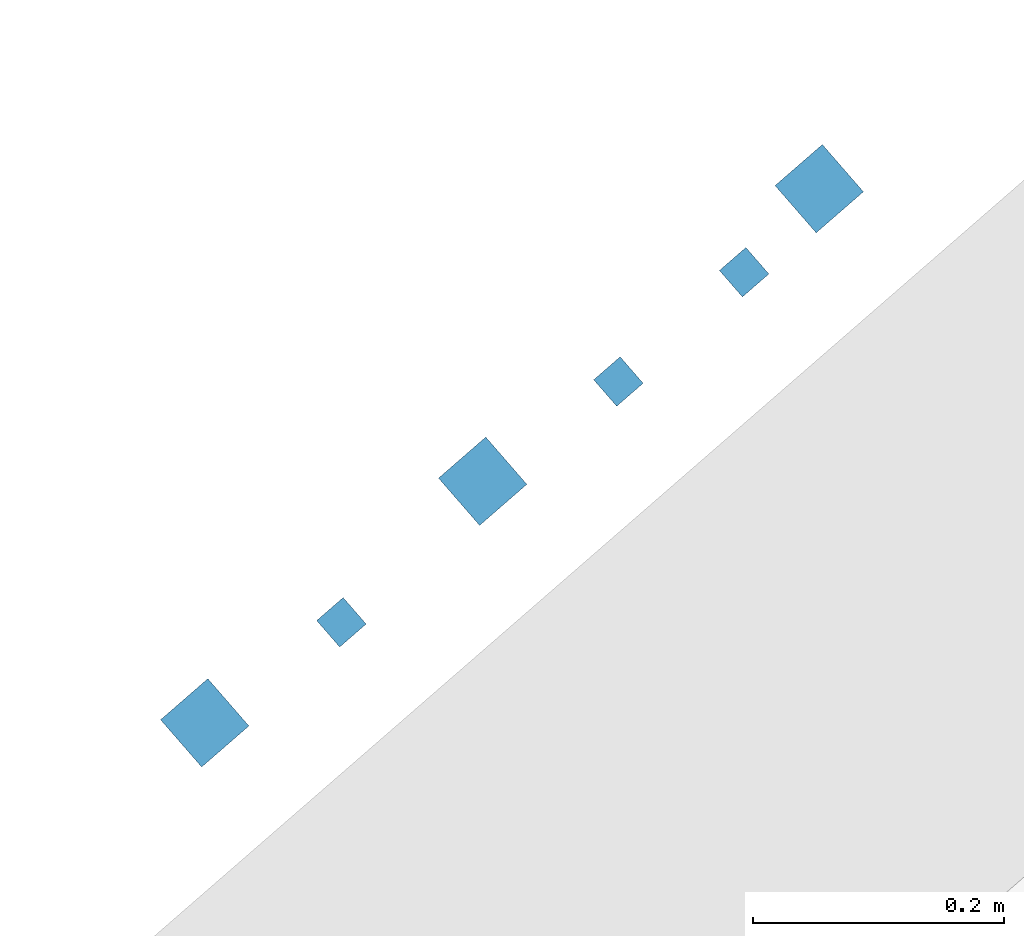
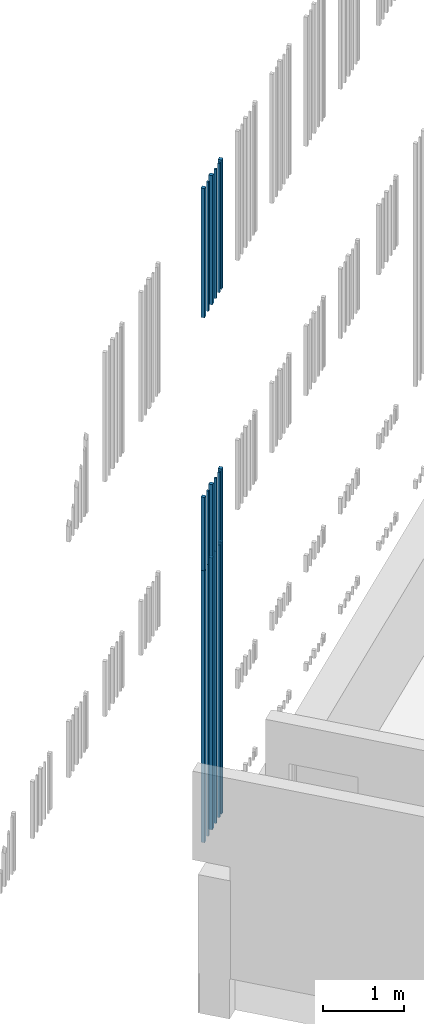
# One storey, part 41 of 124: 18 walls.
"""IFC2X3 building model written with IfcOpenShell, lengths in millimetres."""

from ifc_helpers import new_model, entity, si_unit, converted_unit, derived_unit, money_unit, direction, frame, origin_with_axes, place, context, subcontext, project, spatial, faceted_brep, material, type_object, element, save


model = new_model("IFC2X3")

# Units and contexts
model_context = context("Model", 3, precision=1e-05, world=origin_with_axes(), true_north=direction((0.0, 1.0)))
body_context = subcontext(model_context, "Body", "Model", "MODEL_VIEW")
ifc_project = project(units=[si_unit("LENGTHUNIT", "METRE", prefix="MILLI"), si_unit("AREAUNIT", "SQUARE_METRE"), si_unit("VOLUMEUNIT", "CUBIC_METRE"), converted_unit("PLANEANGLEUNIT", "DEGREE", entity("IfcPlaneAngleMeasure", 0.0174532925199), si_unit("PLANEANGLEUNIT", "RADIAN"), dimensions=[0, 0, 0, 0, 0, 0, 0]), si_unit("SOLIDANGLEUNIT", "STERADIAN"), money_unit("EUR"), converted_unit("TIMEUNIT", "Year", entity("IfcTimeMeasure", 31556926.0), si_unit("TIMEUNIT", "SECOND"), dimensions=[0, 0, 1, 0, 0, 0, 0]), si_unit("MASSUNIT", "GRAM", prefix="KILO"), si_unit("THERMODYNAMICTEMPERATUREUNIT", "DEGREE_CELSIUS"), si_unit("LUMINOUSINTENSITYUNIT", "LUMEN"), si_unit("ENERGYUNIT", "JOULE", prefix="MEGA"), derived_unit("THERMALCONDUCTANCEUNIT", [(si_unit("POWERUNIT", "WATT"), 1), (si_unit("LENGTHUNIT", "METRE"), -1), (si_unit("THERMODYNAMICTEMPERATUREUNIT", "KELVIN"), -1)]), derived_unit("SPECIFICHEATCAPACITYUNIT", [(si_unit("ENERGYUNIT", "JOULE"), 1), (si_unit("MASSUNIT", "GRAM", prefix="KILO"), -1), (si_unit("THERMODYNAMICTEMPERATUREUNIT", "KELVIN"), -1)]), derived_unit("MASSDENSITYUNIT", [(si_unit("MASSUNIT", "GRAM", prefix="KILO"), 1), (si_unit("VOLUMEUNIT", "CUBIC_METRE"), -1)])], contexts=[model_context])

# Site, building, storey
site_placement = place(None, origin_with_axes())
site = spatial("IfcSite", under=ifc_project, at=site_placement, Name="Site", CompositionType="ELEMENT")
building_placement = place(site_placement, origin_with_axes())
building = spatial("IfcBuilding", under=site, at=building_placement, Name="Building", CompositionType="ELEMENT")
storey_placement = place(building_placement, frame((0.0, 0.0, -1615.0), z_axis=(0.0, 0.0, 1.0), x_axis=(1.0, 0.0, 0.0)))
storey = spatial("IfcBuildingStorey", under=building, at=storey_placement, Name="0  korrus", CompositionType="ELEMENT", Elevation=-1615.0)

# Walls
ifc_material = material(Name="Site specified")
wall_type = type_object("IfcWallType", Name="Puitfassaadi ribistik", PredefinedType="NOTDEFINED")
wall_1_placement = place(storey_placement, frame((137526.301261, 89586.2055734, 1615.0), z_axis=(0.0, 0.0, 1.0), x_axis=(0.754709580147, 0.656059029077, 0.0)))
element("IfcWall", 1, at=wall_1_placement, inside=storey, type_object=wall_type, material=ifc_material, Name="Site specified", context=body_context, shape_type="Brep", body=[
    faceted_brep([(25.0, 25.0, 4100.0), (25.0, 25.0, 0.0), (-25.0, 25.0, 0.0), (-25.0, 25.0, 4100.0), (25.0, -25.0, 4100.0), (25.0, -25.0, 0.0), (-25.0, -25.0, 0.0), (-25.0, -25.0, 4100.0)], [[[0, 1, 2, 3]], [[4, 5, 1, 0]], [[2, 1, 5, 6]], [[3, 2, 6, 7]], [[4, 0, 3, 7]], [[7, 6, 5, 4]]]),
])
wall_2_placement = place(storey_placement, frame((137635.405583, 89666.4733708, 1615.0), z_axis=(0.0, 0.0, 1.0), x_axis=(0.754709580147, 0.656059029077, 0.0)))
element("IfcWall", 2, at=wall_2_placement, inside=storey, type_object=wall_type, material=ifc_material, Name="Site specified", context=body_context, shape_type="Brep", body=[
    faceted_brep([(14.0, 14.0, 4100.0), (14.0, 14.0, 0.0), (-14.0, 14.0, 0.0), (-14.0, 14.0, 4100.0), (14.0, -14.0, 4100.0), (14.0, -14.0, 0.0), (-14.0, -14.0, 0.0), (-14.0, -14.0, 4100.0)], [[[0, 1, 2, 3]], [[4, 5, 1, 0]], [[2, 1, 5, 6]], [[3, 2, 6, 7]], [[4, 0, 3, 7]], [[7, 6, 5, 4]]]),
])
wall_3_placement = place(storey_placement, frame((137748.185876, 89779.0869265, 1615.0), z_axis=(0.0, 0.0, 1.0), x_axis=(0.754709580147, 0.656059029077, 0.0)))
element("IfcWall", 3, at=wall_3_placement, inside=storey, type_object=wall_type, material=ifc_material, Name="Site specified", context=body_context, shape_type="Brep", body=[
    faceted_brep([(25.0, 25.0, 4100.0), (25.0, 25.0, 0.0), (-25.0, 25.0, 0.0), (-25.0, 25.0, 4100.0), (25.0, -25.0, 4100.0), (25.0, -25.0, 0.0), (-25.0, -25.0, 0.0), (-25.0, -25.0, 4100.0)], [[[0, 1, 2, 3]], [[4, 5, 1, 0]], [[2, 1, 5, 6]], [[3, 2, 6, 7]], [[4, 0, 3, 7]], [[7, 6, 5, 4]]]),
])
for number, where, z_axis, x_axis, name in (
    (4, (137956.911842, 89945.9544977, 1615.0), (0.0, 0.0, 1.0), (0.754709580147, 0.656059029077, 0.0), "Site specified"),
    (5, (137856.535468, 89858.6986474, 1615.0), (0.0, 0.0, 1.0), (0.754709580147, 0.656059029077, 0.0), "Site specified"),
):
    element("IfcWall", number, at=place(storey_placement, frame(where, z_axis=z_axis, x_axis=x_axis)), inside=storey, type_object=wall_type, material=ifc_material, Name=name, context=body_context, shape_type="Brep", body=[
        faceted_brep([(14.0, 14.0, 4100.0), (14.0, 14.0, 0.0), (-14.0, 14.0, 0.0), (-14.0, 14.0, 4100.0), (14.0, -14.0, 4100.0), (14.0, -14.0, 0.0), (-14.0, -14.0, 0.0), (-14.0, -14.0, 4100.0)], [[[0, 1, 2, 3]], [[4, 5, 1, 0]], [[2, 1, 5, 6]], [[3, 2, 6, 7]], [[4, 0, 3, 7]], [[7, 6, 5, 4]]]),
    ])
wall_4_placement = place(storey_placement, frame((138016.866738, 90012.6476367, 1615.0), z_axis=(0.0, 0.0, 1.0), x_axis=(0.754709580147, 0.656059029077, 0.0)))
element("IfcWall", 6, at=wall_4_placement, inside=storey, type_object=wall_type, material=ifc_material, Name="Site specified", context=body_context, shape_type="Brep", body=[
    faceted_brep([(25.0, 25.0, 4100.0), (25.0, 25.0, 0.0), (-25.0, 25.0, 0.0), (-25.0, 25.0, 4100.0), (25.0, -25.0, 4100.0), (25.0, -25.0, 0.0), (-25.0, -25.0, 0.0), (-25.0, -25.0, 4100.0)], [[[0, 1, 2, 3]], [[4, 5, 1, 0]], [[2, 1, 5, 6]], [[3, 2, 6, 7]], [[4, 0, 3, 7]], [[7, 6, 5, 4]]]),
])
for number, where, z_axis, x_axis, name in (
    (7, (137526.301261, 89586.2055734, 1615.0), (0.0, 0.0, 1.0), (0.754709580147, 0.656059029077, 0.0), "Site specified"),
    (8, (138016.866738, 90012.6476367, 1615.0), (0.0, 0.0, 1.0), (0.754709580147, 0.656059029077, 0.0), "Site specified"),
):
    element("IfcWall", number, at=place(storey_placement, frame(where, z_axis=z_axis, x_axis=x_axis)), inside=storey, type_object=wall_type, material=ifc_material, Name=name, context=body_context, shape_type="Brep", body=[
        faceted_brep([(25.0, 25.0, 5206.0), (25.0, 25.0, 0.0), (-25.0, 25.0, 0.0), (-25.0, 25.0, 5206.0), (25.0, -25.0, 5206.0), (25.0, -25.0, 0.0), (-25.0, -25.0, 0.0), (-25.0, -25.0, 5206.0)], [[[0, 1, 2, 3]], [[4, 5, 1, 0]], [[2, 1, 5, 6]], [[3, 2, 6, 7]], [[4, 0, 3, 7]], [[7, 6, 5, 4]]]),
    ])
for number, where, z_axis, x_axis, name in (
    (9, (137635.405583, 89666.4733708, 1615.0), (0.0, 0.0, 1.0), (0.754709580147, 0.656059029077, 0.0), "Site specified"),
    (10, (137956.911842, 89945.9544977, 1615.0), (0.0, 0.0, 1.0), (0.754709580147, 0.656059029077, 0.0), "Site specified"),
    (11, (137856.535468, 89858.6986474, 1615.0), (0.0, 0.0, 1.0), (0.754709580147, 0.656059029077, 0.0), "Site specified"),
):
    element("IfcWall", number, at=place(storey_placement, frame(where, z_axis=z_axis, x_axis=x_axis)), inside=storey, type_object=wall_type, material=ifc_material, Name=name, context=body_context, shape_type="Brep", body=[
        faceted_brep([(14.0, 14.0, 5206.0), (14.0, 14.0, 0.0), (-14.0, 14.0, 0.0), (-14.0, 14.0, 5206.0), (14.0, -14.0, 5206.0), (14.0, -14.0, 0.0), (-14.0, -14.0, 0.0), (-14.0, -14.0, 5206.0)], [[[0, 1, 2, 3]], [[4, 5, 1, 0]], [[2, 1, 5, 6]], [[3, 2, 6, 7]], [[4, 0, 3, 7]], [[7, 6, 5, 4]]]),
    ])
wall_5_placement = place(storey_placement, frame((137856.535468, 89858.6986474, 9530.0), z_axis=(0.0, 0.0, 1.0), x_axis=(0.754709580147, 0.656059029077, 0.0)))
element("IfcWall", 12, at=wall_5_placement, inside=storey, type_object=wall_type, material=ifc_material, Name="Site specified", context=body_context, shape_type="Brep", body=[
    faceted_brep([(14.0, 14.0, 1950.0), (14.0, 14.0, 0.0), (-14.0, 14.0, 0.0), (-14.0, 14.0, 1950.0), (14.0, -14.0, 1950.0), (14.0, -14.0, 0.0), (-14.0, -14.0, 0.0), (-14.0, -14.0, 1950.0)], [[[0, 1, 2, 3]], [[4, 5, 1, 0]], [[2, 1, 5, 6]], [[3, 2, 6, 7]], [[4, 0, 3, 7]], [[7, 6, 5, 4]]]),
])
for number, where, z_axis, x_axis, name in (
    (13, (138016.866738, 90012.6476367, 9530.0), (0.0, 0.0, 1.0), (0.754709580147, 0.656059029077, 0.0), "Site specified"),
    (14, (137748.185876, 89779.0869265, 9530.0), (0.0, 0.0, 1.0), (0.754709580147, 0.656059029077, 0.0), "Site specified"),
):
    element("IfcWall", number, at=place(storey_placement, frame(where, z_axis=z_axis, x_axis=x_axis)), inside=storey, type_object=wall_type, material=ifc_material, Name=name, context=body_context, shape_type="Brep", body=[
        faceted_brep([(25.0, 25.0, 1950.0), (25.0, 25.0, 0.0), (-25.0, 25.0, 0.0), (-25.0, 25.0, 1950.0), (25.0, -25.0, 1950.0), (25.0, -25.0, 0.0), (-25.0, -25.0, 0.0), (-25.0, -25.0, 1950.0)], [[[0, 1, 2, 3]], [[4, 5, 1, 0]], [[2, 1, 5, 6]], [[3, 2, 6, 7]], [[4, 0, 3, 7]], [[7, 6, 5, 4]]]),
    ])
wall_6_placement = place(storey_placement, frame((137748.185876, 89779.0869265, 1615.0), z_axis=(0.0, 0.0, 1.0), x_axis=(0.754709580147, 0.656059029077, 0.0)))
element("IfcWall", 15, at=wall_6_placement, inside=storey, type_object=wall_type, material=ifc_material, Name="Site specified", context=body_context, shape_type="Brep", body=[
    faceted_brep([(25.0, 25.0, 5206.0), (25.0, 25.0, 0.0), (-25.0, 25.0, 0.0), (-25.0, 25.0, 5206.0), (25.0, -25.0, 5206.0), (25.0, -25.0, 0.0), (-25.0, -25.0, 0.0), (-25.0, -25.0, 5206.0)], [[[0, 1, 2, 3]], [[4, 5, 1, 0]], [[2, 1, 5, 6]], [[3, 2, 6, 7]], [[4, 0, 3, 7]], [[7, 6, 5, 4]]]),
])
wall_7_placement = place(storey_placement, frame((137956.911842, 89945.9544977, 9530.0), z_axis=(0.0, 0.0, 1.0), x_axis=(0.754709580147, 0.656059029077, 0.0)))
element("IfcWall", 16, at=wall_7_placement, inside=storey, type_object=wall_type, material=ifc_material, Name="Site specified", context=body_context, shape_type="Brep", body=[
    faceted_brep([(14.0, 14.0, 1950.0), (14.0, 14.0, 0.0), (-14.0, 14.0, 0.0), (-14.0, 14.0, 1950.0), (14.0, -14.0, 1950.0), (14.0, -14.0, 0.0), (-14.0, -14.0, 0.0), (-14.0, -14.0, 1950.0)], [[[0, 1, 2, 3]], [[4, 5, 1, 0]], [[2, 1, 5, 6]], [[3, 2, 6, 7]], [[4, 0, 3, 7]], [[7, 6, 5, 4]]]),
])
wall_8_placement = place(storey_placement, frame((137526.301261, 89586.2055734, 9530.0), z_axis=(0.0, 0.0, 1.0), x_axis=(0.754709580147, 0.656059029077, 0.0)))
element("IfcWall", 17, at=wall_8_placement, inside=storey, type_object=wall_type, material=ifc_material, Name="Site specified", context=body_context, shape_type="Brep", body=[
    faceted_brep([(25.0, 25.0, 1950.0), (25.0, 25.0, 0.0), (-25.0, 25.0, 0.0), (-25.0, 25.0, 1950.0), (25.0, -25.0, 1950.0), (25.0, -25.0, 0.0), (-25.0, -25.0, 0.0), (-25.0, -25.0, 1950.0)], [[[0, 1, 2, 3]], [[4, 5, 1, 0]], [[2, 1, 5, 6]], [[3, 2, 6, 7]], [[4, 0, 3, 7]], [[7, 6, 5, 4]]]),
])
wall_9_placement = place(storey_placement, frame((137635.405583, 89666.4733708, 9530.0), z_axis=(0.0, 0.0, 1.0), x_axis=(0.754709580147, 0.656059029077, 0.0)))
element("IfcWall", 18, at=wall_9_placement, inside=storey, type_object=wall_type, material=ifc_material, Name="Site specified", context=body_context, shape_type="Brep", body=[
    faceted_brep([(14.0, 14.0, 1950.0), (14.0, 14.0, 0.0), (-14.0, 14.0, 0.0), (-14.0, 14.0, 1950.0), (14.0, -14.0, 1950.0), (14.0, -14.0, 0.0), (-14.0, -14.0, 0.0), (-14.0, -14.0, 1950.0)], [[[0, 1, 2, 3]], [[4, 5, 1, 0]], [[2, 1, 5, 6]], [[3, 2, 6, 7]], [[4, 0, 3, 7]], [[7, 6, 5, 4]]]),
])

save(model, "model.ifc")
